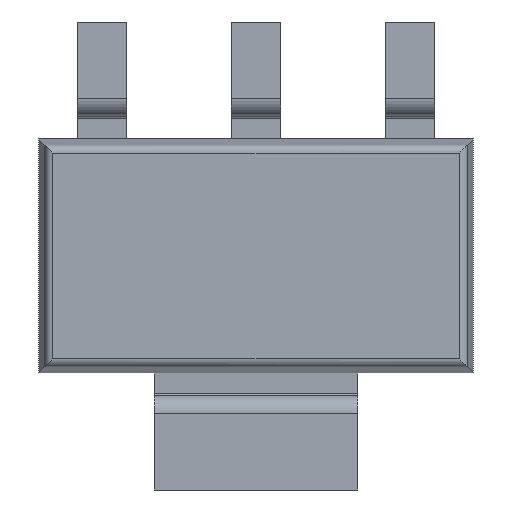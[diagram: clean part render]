
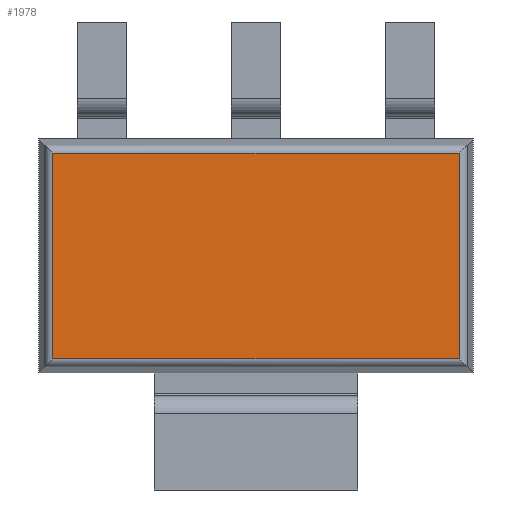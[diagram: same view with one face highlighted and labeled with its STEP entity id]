
A CAD part, front view. The second image highlights one B-rep face of the part: STEP entity #1978.
In plain terms, the highlighted planar face has unit normal (0, -1, 0).
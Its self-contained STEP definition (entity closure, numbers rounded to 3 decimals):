
#1939 = CARTESIAN_POINT ( 'NONE',  ( 3.039, 0.02, -1.539 ) ) ;
#1940 = VERTEX_POINT ( 'NONE', #1939 ) ;
#1941 = CARTESIAN_POINT ( 'NONE',  ( 3.039, 0.02, 1.539 ) ) ;
#1942 = VERTEX_POINT ( 'NONE', #1941 ) ;
#1943 = CARTESIAN_POINT ( 'NONE',  ( 3.039, 0.02, 0.768 ) ) ;
#1944 = DIRECTION ( 'NONE',  ( 0., 0., 1. ) ) ;
#1945 = VECTOR ( 'NONE', #1944, 1000. ) ;
#1946 = LINE ( 'NONE', #1943, #1945 ) ;
#1947 = EDGE_CURVE ( 'NONE', #1940, #1942, #1946, .T. ) ;
#1948 = ORIENTED_EDGE ( 'NONE', *, *, #1947, .T. ) ;
#1949 = CARTESIAN_POINT ( 'NONE',  ( -3.039, 0.02, 1.539 ) ) ;
#1950 = VERTEX_POINT ( 'NONE', #1949 ) ;
#1951 = CARTESIAN_POINT ( 'NONE',  ( 1.47, 0.02, 1.539 ) ) ;
#1952 = DIRECTION ( 'NONE',  ( -1., 0., 0. ) ) ;
#1953 = VECTOR ( 'NONE', #1952, 1000. ) ;
#1954 = LINE ( 'NONE', #1951, #1953 ) ;
#1955 = EDGE_CURVE ( 'NONE', #1942, #1950, #1954, .T. ) ;
#1956 = ORIENTED_EDGE ( 'NONE', *, *, #1955, .T. ) ;
#1957 = CARTESIAN_POINT ( 'NONE',  ( -3.039, 0.02, -1.539 ) ) ;
#1958 = VERTEX_POINT ( 'NONE', #1957 ) ;
#1959 = CARTESIAN_POINT ( 'NONE',  ( -3.039, 0.02, 0.768 ) ) ;
#1960 = DIRECTION ( 'NONE',  ( 0., 0., -1. ) ) ;
#1961 = VECTOR ( 'NONE', #1960, 1000. ) ;
#1962 = LINE ( 'NONE', #1959, #1961 ) ;
#1963 = EDGE_CURVE ( 'NONE', #1950, #1958, #1962, .T. ) ;
#1964 = ORIENTED_EDGE ( 'NONE', *, *, #1963, .T. ) ;
#1965 = CARTESIAN_POINT ( 'NONE',  ( 1.47, 0.02, -1.539 ) ) ;
#1966 = DIRECTION ( 'NONE',  ( 1., 0., 0. ) ) ;
#1967 = VECTOR ( 'NONE', #1966, 1000. ) ;
#1968 = LINE ( 'NONE', #1965, #1967 ) ;
#1969 = EDGE_CURVE ( 'NONE', #1958, #1940, #1968, .T. ) ;
#1970 = ORIENTED_EDGE ( 'NONE', *, *, #1969, .T. ) ;
#1971 = EDGE_LOOP ( 'NONE', ( #1948, #1956, #1964, #1970 ) ) ;
#1972 = FACE_OUTER_BOUND ( 'NONE', #1971, .T. ) ;
#1973 = CARTESIAN_POINT ( 'NONE',  ( 1.47, 0.02, 0.768 ) ) ;
#1974 = DIRECTION ( 'NONE',  ( 0., -1., 0. ) ) ;
#1975 = DIRECTION ( 'NONE',  ( 0., 0., -1. ) ) ;
#1976 = AXIS2_PLACEMENT_3D ( 'NONE', #1973, #1974, #1975 ) ;
#1977 = PLANE ( 'NONE', #1976 ) ;
#1978 = ADVANCED_FACE ( 'NONE', ( #1972 ), #1977, .T. ) ;
